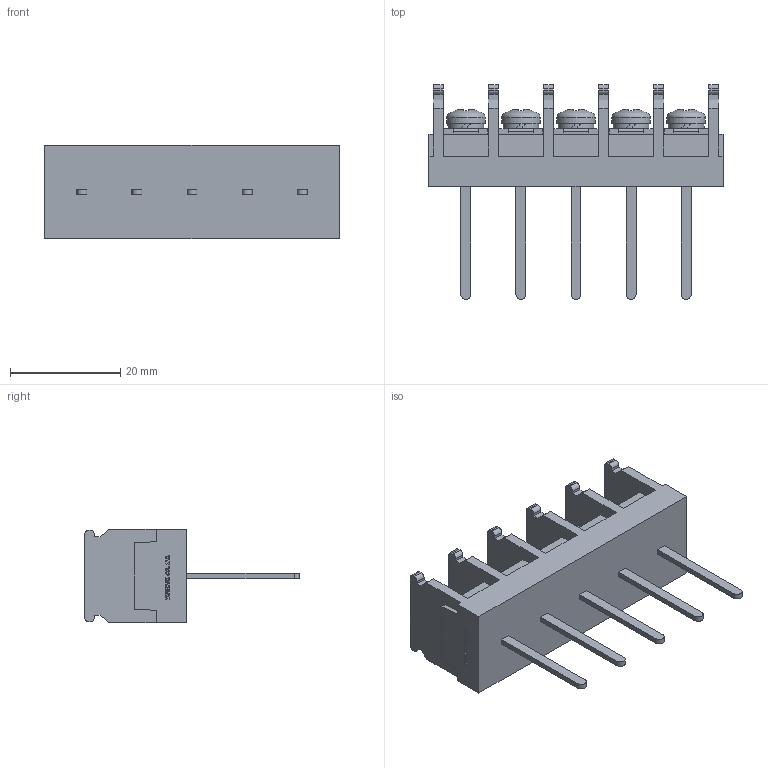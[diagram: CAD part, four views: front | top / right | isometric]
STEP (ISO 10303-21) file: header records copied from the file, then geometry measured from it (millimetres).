
FILE_DESCRIPTION(/* description */ ('Alibre Inc.'),/* implementation_level */ '2;1');
FILE_NAME(/* name */ 'export0',/* time_stamp */ '2015-10-17T17:11:09+09:00',/* author */ (''),/* organization */ (''),/* preprocessor_version */ 'ST-DEVELOPER v14',/* originating_system */ 'Alibre',/* authorisation */ '');
FILE_SCHEMA (('CONFIG_CONTROL_DESIGN'));
Length unit declared in the file: centimetre
Products named in the file (1): ID_1
Bounding box: 53.4 x 39 x 17 mm (x, y, z)
Volume: 10401.5 mm3; surface area: 6628 mm2
Topology: 1 solids, 17 shells, 743 faces, 2007 edges, 1333 vertices
Faces by surface type: plane 550, bspline 104, cylinder 54, cone 20, torus 10, sphere 5
Full cylindrical faces by diameter (mm): 4 x5, 6.5 x5, 7 x5
Entity records: 22594 total; most frequent: CARTESIAN_POINT 5120, ORIENTED_EDGE 3944, DIRECTION 2700, EDGE_CURVE 1972, VECTOR 1468, LINE 1468, VERTEX_POINT 1318, AXIS2_PLACEMENT_3D 886
